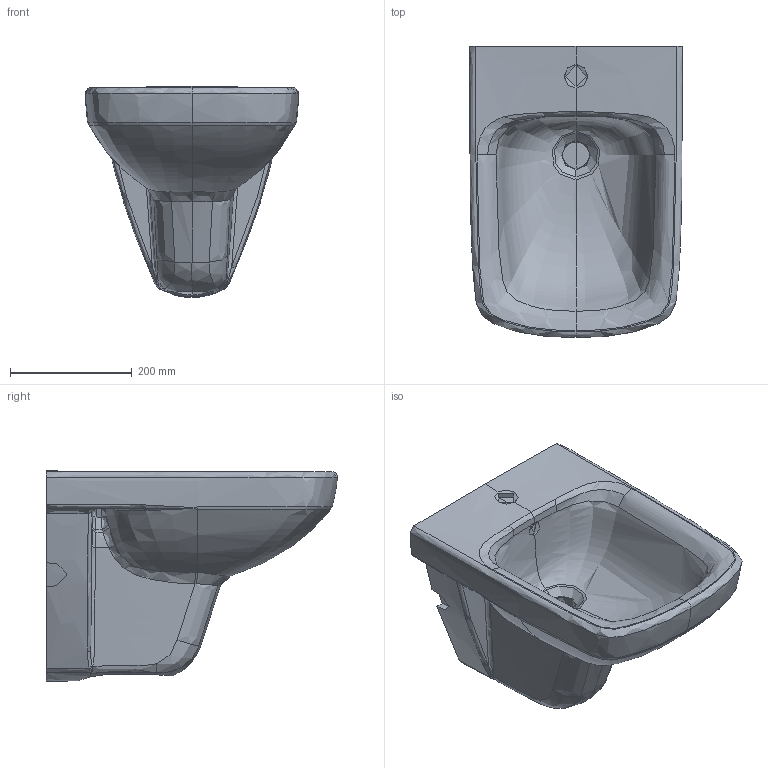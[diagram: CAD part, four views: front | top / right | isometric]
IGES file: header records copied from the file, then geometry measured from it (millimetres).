
Global section: file name: 500272; native system: Autodesk Inventor 2018; preprocessor: unknown; author: JANAN; date: 20200527.082614; units: millimetre
Bounding box: 350.02 x 478.24 x 346.78 mm (x, y, z)
Volume: 17783138.7 mm3; surface area: 708432.3 mm2
Topology: 1 solids, 1 shells, 235 faces, 578 edges, 345 vertices
Faces by surface type: bspline 235
